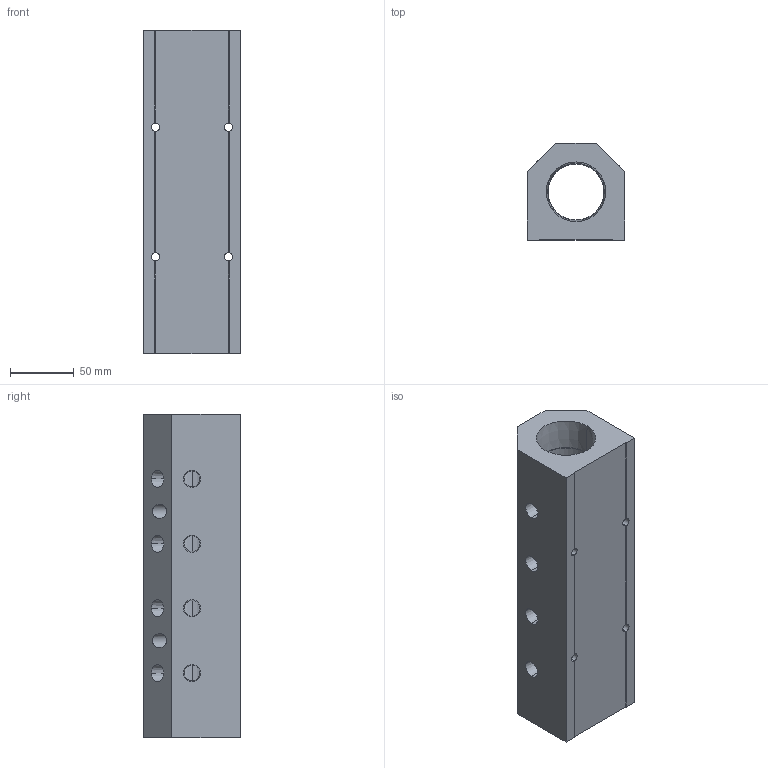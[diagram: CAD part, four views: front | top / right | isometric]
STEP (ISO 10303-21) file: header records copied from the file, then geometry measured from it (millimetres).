
FILE_DESCRIPTION (( 'STEP AP214' ), '1' );
FILE_NAME ('ALM4AB-N4N24-254B.step', '2022-02-07T07:46:11', ( '' ), ( '' ), 'SwSTEP 2.0', 'SolidWorks 2020', '' );
FILE_SCHEMA (( 'AUTOMOTIVE_DESIGN' ));
Length unit declared in the file: millimetre
Products named in the file (1): ALM4AB-N4N24-254B
Bounding box: 76.2 x 76.2 x 254 mm (x, y, z)
Volume: 922203.9 mm3; surface area: 122312.1 mm2
Topology: 1 solids, 1 shells, 328 faces, 869 edges, 574 vertices
Faces by surface type: plane 245, bspline 45, cone 20, cylinder 18
Entity records: 16784 total; most frequent: CARTESIAN_POINT 5841, ORIENTED_EDGE 1738, DIRECTION 1367, EDGE_CURVE 869, VECTOR 695, LINE 695, VERTEX_POINT 574, EDGE_LOOP 385
